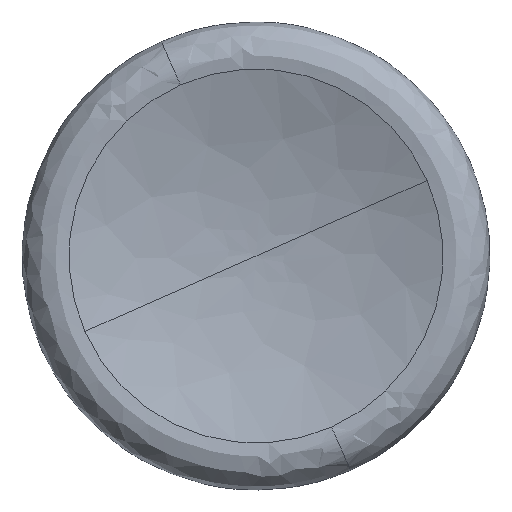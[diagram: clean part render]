
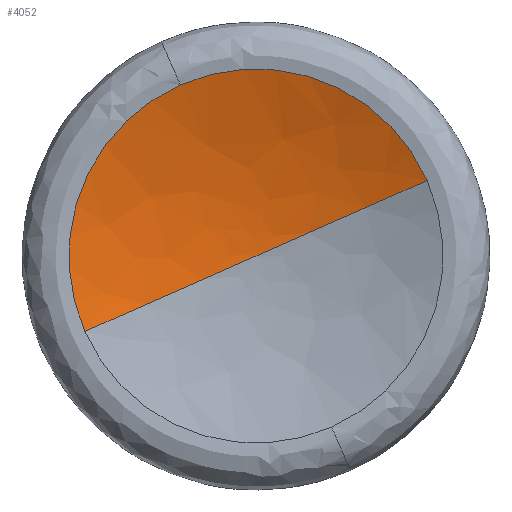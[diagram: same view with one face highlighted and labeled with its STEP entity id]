
A CAD part, front view. The second image highlights one B-rep face of the part: STEP entity #4052.
In plain terms, the highlighted free-form (B-spline) face has degree [3, 3] with [4, 4] control points.
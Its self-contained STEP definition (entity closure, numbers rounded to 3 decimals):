
#91 = VERTEX_POINT ( 'NONE', #6599 ) ;
#477 = CARTESIAN_POINT ( 'NONE',  ( -145.381, -173.364, -64.126 ) ) ;
#726 = CARTESIAN_POINT ( 'NONE',  ( 0., -160.48, 0. ) ) ;
#920 = EDGE_CURVE ( 'NONE', #1004, #91, #7540, .T. ) ;
#1004 = VERTEX_POINT ( 'NONE', #7187 ) ;
#1252 =( BOUNDED_SURFACE ( )  B_SPLINE_SURFACE ( 3, 3, ( 
 ( #6266, #1444, #8200, #3306 ),
 ( #6849, #6169, #4719, #8930 ),
 ( #4022, #8957, #7596, #8291 ),
 ( #3366, #2874, #6223, #6913 ) ),
 .UNSPECIFIED., .F., .F., .F. ) 
 B_SPLINE_SURFACE_WITH_KNOTS ( ( 4, 4 ),
 ( 4, 4 ),
 ( 0.85, 1. ),
 ( 0., 1. ),
 .UNSPECIFIED. ) 
 GEOMETRIC_REPRESENTATION_ITEM ( )  RATIONAL_B_SPLINE_SURFACE ( (
 ( 0.745, 0.248, 0.248, 0.745),
 ( 0.815, 0.272, 0.272, 0.815),
 ( 0.9, 0.3, 0.3, 0.9),
 ( 1., 0.333, 0.333, 1.) ) ) 
 REPRESENTATION_ITEM ( '' )  SURFACE ( )  );
#1444 = CARTESIAN_POINT ( 'NONE',  ( -412.608, -202.762, 341.744 ) ) ;
#1576 = ORIENTED_EDGE ( 'NONE', *, *, #5142, .F. ) ;
#1846 = CARTESIAN_POINT ( 'NONE',  ( -219.219, -202.762, -96.694 ) ) ;
#2306 = ORIENTED_EDGE ( 'NONE', *, *, #920, .F. ) ;
#2377 = CARTESIAN_POINT ( 'NONE',  ( 0., -202.762, 0. ) ) ;
#2662 = AXIS2_PLACEMENT_3D ( 'NONE', #2377, #7338, #3114 ) ;
#2874 = CARTESIAN_POINT ( 'NONE',  ( 0., -160.48, 0. ) ) ;
#2881 = CIRCLE ( 'NONE', #4108, 239.597 ) ;
#2927 = EDGE_LOOP ( 'NONE', ( #6434, #8697, #2306, #1576 ) ) ;
#3114 = DIRECTION ( 'NONE',  ( -0.404, 0., 0.915 ) ) ;
#3200 = CARTESIAN_POINT ( 'NONE',  ( -219.219, -202.762, -96.694 ) ) ;
#3306 = CARTESIAN_POINT ( 'NONE',  ( 219.219, -202.762, 96.694 ) ) ;
#3366 = CARTESIAN_POINT ( 'NONE',  ( 0., -160.48, 0. ) ) ;
#3716 = VERTEX_POINT ( 'NONE', #6301 ) ;
#4022 = CARTESIAN_POINT ( 'NONE',  ( -71.163, -160.48, -31.389 ) ) ;
#4052 = ADVANCED_FACE ( 'NONE', ( #7374 ), #1252, .T. ) ;
#4108 = AXIS2_PLACEMENT_3D ( 'NONE', #4973, #8866, #8179 ) ;
#4719 = CARTESIAN_POINT ( 'NONE',  ( 17.13, -173.364, 354.888 ) ) ;
#4973 = CARTESIAN_POINT ( 'NONE',  ( 0., -202.762, 0. ) ) ;
#5142 = EDGE_CURVE ( 'NONE', #3716, #1004, #2881, .T. ) ;
#5143 = EDGE_CURVE ( 'NONE', #7343, #91, #8867, .T. ) ;
#6169 = CARTESIAN_POINT ( 'NONE',  ( -273.633, -173.364, 226.637 ) ) ;
#6223 = CARTESIAN_POINT ( 'NONE',  ( 0., -160.48, 0. ) ) ;
#6266 = CARTESIAN_POINT ( 'NONE',  ( -219.219, -202.762, -96.694 ) ) ;
#6268 = CARTESIAN_POINT ( 'NONE',  ( 145.381, -173.364, 64.126 ) ) ;
#6301 = CARTESIAN_POINT ( 'NONE',  ( -96.694, -202.762, 219.219 ) ) ;
#6434 = ORIENTED_EDGE ( 'NONE', *, *, #7876, .F. ) ;
#6599 = CARTESIAN_POINT ( 'NONE',  ( 0., -160.48, 0. ) ) ;
#6849 = CARTESIAN_POINT ( 'NONE',  ( -145.381, -173.364, -64.126 ) ) ;
#6913 = CARTESIAN_POINT ( 'NONE',  ( 0., -160.48, 0. ) ) ;
#7187 = CARTESIAN_POINT ( 'NONE',  ( 219.219, -202.762, 96.694 ) ) ;
#7338 = DIRECTION ( 'NONE',  ( 0., 1., 0. ) ) ;
#7343 = VERTEX_POINT ( 'NONE', #3200 ) ;
#7374 = FACE_OUTER_BOUND ( 'NONE', #2927, .T. ) ;
#7540 =( BOUNDED_CURVE ( )  B_SPLINE_CURVE ( 3, ( #7885, #6268, #8497, #8776 ),
 .UNSPECIFIED., .F., .F. ) 
 B_SPLINE_CURVE_WITH_KNOTS ( ( 4, 4 ),
 ( 0.85, 1. ),
 .UNSPECIFIED. ) 
 CURVE ( )  GEOMETRIC_REPRESENTATION_ITEM ( )  RATIONAL_B_SPLINE_CURVE ( ( 0.745, 0.815, 0.9, 1. ) ) 
 REPRESENTATION_ITEM ( '' )  );
#7596 = CARTESIAN_POINT ( 'NONE',  ( 8.385, -160.48, 173.714 ) ) ;
#7876 = EDGE_CURVE ( 'NONE', #7343, #3716, #8561, .T. ) ;
#7885 = CARTESIAN_POINT ( 'NONE',  ( 219.219, -202.762, 96.694 ) ) ;
#8179 = DIRECTION ( 'NONE',  ( -0.404, 0., 0.915 ) ) ;
#8200 = CARTESIAN_POINT ( 'NONE',  ( 25.831, -202.762, 535.133 ) ) ;
#8208 = CARTESIAN_POINT ( 'NONE',  ( -71.163, -160.48, -31.389 ) ) ;
#8291 = CARTESIAN_POINT ( 'NONE',  ( 71.163, -160.48, 31.389 ) ) ;
#8497 = CARTESIAN_POINT ( 'NONE',  ( 71.163, -160.48, 31.389 ) ) ;
#8561 = CIRCLE ( 'NONE', #2662, 239.597 ) ;
#8697 = ORIENTED_EDGE ( 'NONE', *, *, #5143, .T. ) ;
#8776 = CARTESIAN_POINT ( 'NONE',  ( 0., -160.48, 0. ) ) ;
#8866 = DIRECTION ( 'NONE',  ( 0., 1., 0. ) ) ;
#8867 =( BOUNDED_CURVE ( )  B_SPLINE_CURVE ( 3, ( #1846, #477, #8208, #726 ),
 .UNSPECIFIED., .F., .F. ) 
 B_SPLINE_CURVE_WITH_KNOTS ( ( 4, 4 ),
 ( 0.85, 1. ),
 .UNSPECIFIED. ) 
 CURVE ( )  GEOMETRIC_REPRESENTATION_ITEM ( )  RATIONAL_B_SPLINE_CURVE ( ( 0.745, 0.815, 0.9, 1. ) ) 
 REPRESENTATION_ITEM ( '' )  );
#8930 = CARTESIAN_POINT ( 'NONE',  ( 145.381, -173.364, 64.126 ) ) ;
#8957 = CARTESIAN_POINT ( 'NONE',  ( -133.94, -160.48, 110.937 ) ) ;
